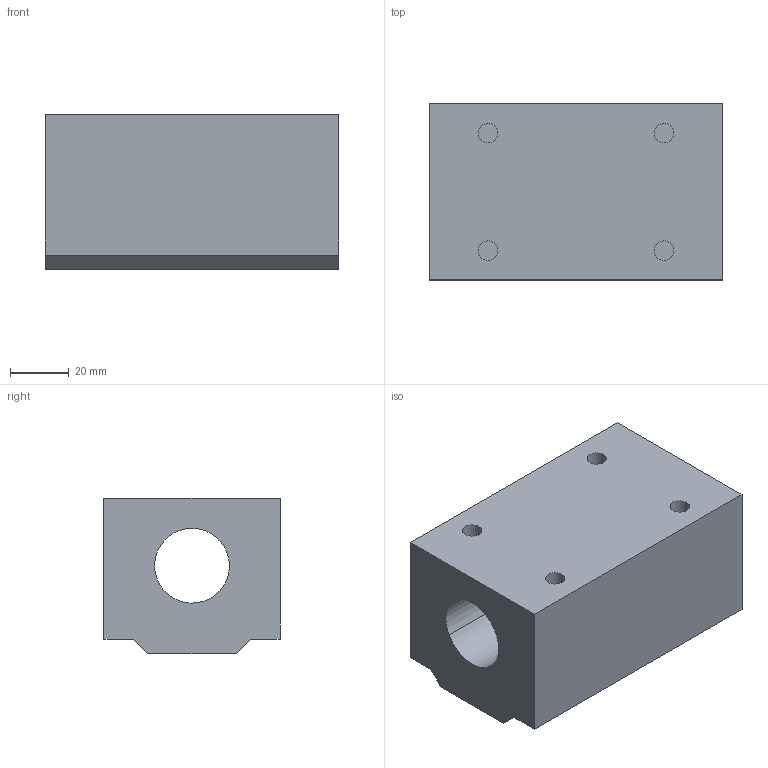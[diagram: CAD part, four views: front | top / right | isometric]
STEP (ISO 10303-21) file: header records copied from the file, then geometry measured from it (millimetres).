
FILE_DESCRIPTION(('CATIA V5 STEP Exchange'),'2;1');
FILE_NAME('C:\Users\aa\Documents\이댈\볼스크류\BNT\링크X\BNTR2510.stp','2018-11-16T04:53:15+00:00',('none'),('none'),'CATIA Version 5 Release 20 SP 7 (IN-10)','CATIA V5 STEP AP203','none');
FILE_SCHEMA(('CONFIG_CONTROL_DESIGN'));
Length unit declared in the file: millimetre
Products named in the file (1): Part1
Bounding box: 100 x 60 x 53 mm (x, y, z)
Volume: 253129.2 mm3; surface area: 35936.6 mm2
Topology: 1 solids, 1 shells, 27 faces, 60 edges, 40 vertices
Faces by surface type: plane 15, cylinder 12
Entity records: 730 total; most frequent: ORIENTED_EDGE 120, CARTESIAN_POINT 118, DIRECTION 94, EDGE_CURVE 60, AXIS2_PLACEMENT_3D 42, VERTEX_POINT 40, VECTOR 36, LINE 36
